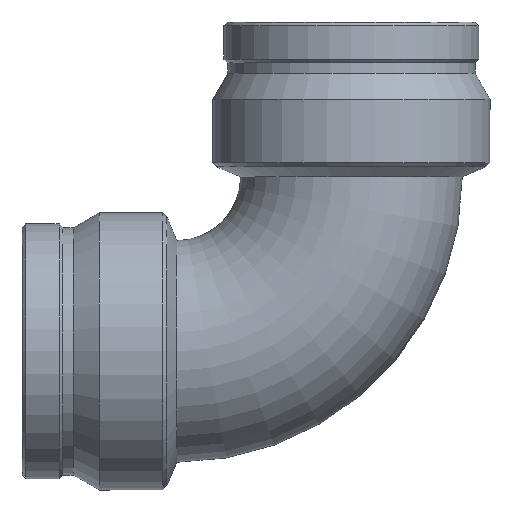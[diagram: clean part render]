
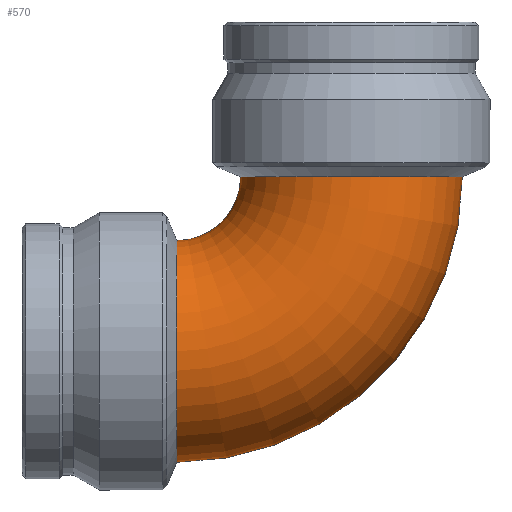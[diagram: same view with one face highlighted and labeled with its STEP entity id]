
A CAD part, front view. The second image highlights one B-rep face of the part: STEP entity #570.
In plain terms, the highlighted toroidal (fillet/blend) face has major radius 115.35 mm and minor radius 73.2 mm.
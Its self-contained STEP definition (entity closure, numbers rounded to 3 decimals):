
#130=FACE_OUTER_BOUND('',#172,.T.);
#172=EDGE_LOOP('',(#409,#410,#411,#412,#413,#414));
#228=CIRCLE('',#641,73.2);
#229=CIRCLE('',#642,73.2);
#230=CIRCLE('',#643,42.15);
#231=CIRCLE('',#644,73.2);
#232=CIRCLE('',#645,73.2);
#275=VERTEX_POINT('',#948);
#276=VERTEX_POINT('',#949);
#277=VERTEX_POINT('',#952);
#278=VERTEX_POINT('',#954);
#326=EDGE_CURVE('',#275,#276,#228,.T.);
#327=EDGE_CURVE('',#276,#275,#229,.T.);
#328=EDGE_CURVE('',#276,#277,#230,.T.);
#329=EDGE_CURVE('',#278,#277,#231,.T.);
#330=EDGE_CURVE('',#277,#278,#232,.T.);
#409=ORIENTED_EDGE('',*,*,#326,.F.);
#410=ORIENTED_EDGE('',*,*,#327,.F.);
#411=ORIENTED_EDGE('',*,*,#328,.T.);
#412=ORIENTED_EDGE('',*,*,#329,.F.);
#413=ORIENTED_EDGE('',*,*,#330,.F.);
#414=ORIENTED_EDGE('',*,*,#328,.F.);
#568=TOROIDAL_SURFACE('',#640,115.35,73.2);
#570=ADVANCED_FACE('',(#130),#568,.T.);
#640=AXIS2_PLACEMENT_3D('',#947,#738,#739);
#641=AXIS2_PLACEMENT_3D('',#950,#740,#741);
#642=AXIS2_PLACEMENT_3D('',#951,#742,#743);
#643=AXIS2_PLACEMENT_3D('',#953,#744,#745);
#644=AXIS2_PLACEMENT_3D('',#955,#746,#747);
#645=AXIS2_PLACEMENT_3D('',#956,#748,#749);
#738=DIRECTION('center_axis',(0.,-1.,0.));
#739=DIRECTION('ref_axis',(0.,0.,-1.));
#740=DIRECTION('center_axis',(0.,0.,
1.));
#741=DIRECTION('ref_axis',(0.,-1.,0.));
#742=DIRECTION('center_axis',(0.,0.,
1.));
#743=DIRECTION('ref_axis',(0.,-1.,0.));
#744=DIRECTION('center_axis',(0.,1.,0.));
#745=DIRECTION('ref_axis',(0.,0.,-1.));
#746=DIRECTION('center_axis',(-1.,0.,0.));
#747=DIRECTION('ref_axis',(0.,-1.,0.));
#748=DIRECTION('center_axis',(-1.,0.,0.));
#749=DIRECTION('ref_axis',(0.,-1.,0.));
#947=CARTESIAN_POINT('Origin',(-115.35,0.,115.35));
#948=CARTESIAN_POINT('',(0.,73.2,115.35));
#949=CARTESIAN_POINT('',(-73.2,0.,115.35));
#950=CARTESIAN_POINT('Origin',(0.,0.,
115.35));
#951=CARTESIAN_POINT('Origin',(0.,0.,
115.35));
#952=CARTESIAN_POINT('',(-115.35,0.,73.2));
#953=CARTESIAN_POINT('Origin',(-115.35,0.,115.35));
#954=CARTESIAN_POINT('',(-115.35,73.2,0.));
#955=CARTESIAN_POINT('Origin',(-115.35,0.,0.));
#956=CARTESIAN_POINT('Origin',(-115.35,0.,0.));
